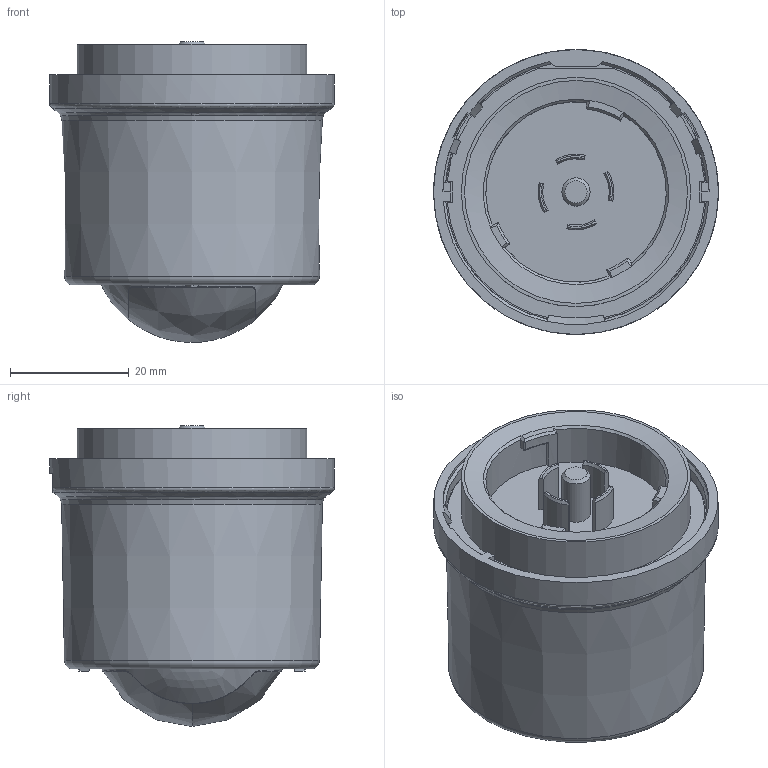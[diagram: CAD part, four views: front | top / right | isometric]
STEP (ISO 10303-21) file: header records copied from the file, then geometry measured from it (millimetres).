
FILE_DESCRIPTION (( 'STEP AP203' ), '1' );
FILE_NAME ('9C1-4551748-000-00.STP', '2025-10-17T10:37:17', ( '' ), ( '' ), 'SwSTEP 2.0', 'SolidWorks 2023', '' );
FILE_SCHEMA (( 'CONFIG_CONTROL_DESIGN' ));
Length unit declared in the file: millimetre
Products named in the file (1): 9C1-4551748-000-00
Bounding box: 48 x 48 x 50.7 mm (x, y, z)
Volume: 57751.2 mm3; surface area: 11526 mm2
Topology: 1 solids, 1 shells, 199 faces, 527 edges, 341 vertices
Faces by surface type: plane 90, cylinder 60, cone 35, bspline 11, torus 3
Full cylindrical faces by diameter (mm): 4.75 x1, 38.65 x1, 48 x1
Entity records: 6684 total; most frequent: CARTESIAN_POINT 1936, ORIENTED_EDGE 1008, DIRECTION 913, EDGE_CURVE 504, VERTEX_POINT 334, AXIS2_PLACEMENT_3D 328, LINE 257, VECTOR 257
